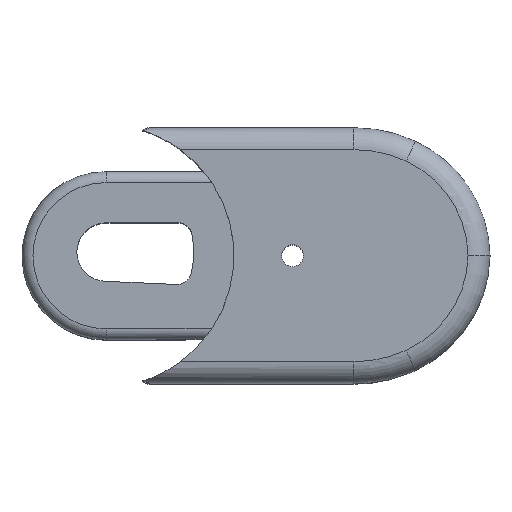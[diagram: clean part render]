
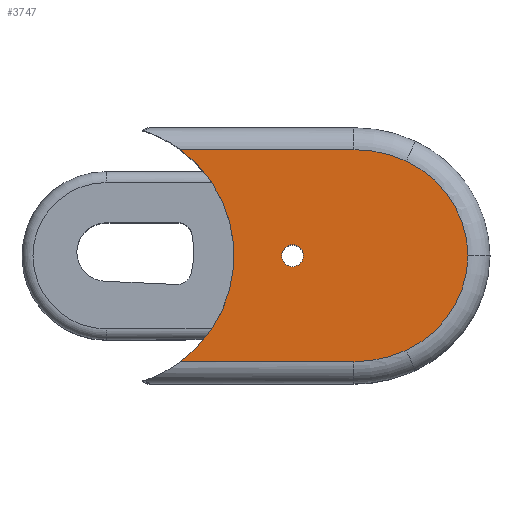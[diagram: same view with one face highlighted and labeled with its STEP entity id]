
A CAD part, top view. The second image highlights one B-rep face of the part: STEP entity #3747.
In plain terms, the highlighted free-form (B-spline) face has degree [1, 1] with [2, 2] control points.
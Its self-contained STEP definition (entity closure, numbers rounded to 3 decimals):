
#119=CARTESIAN_POINT('',(9.5,0.,50.0));
#120=VERTEX_POINT('',#119);
#121=CARTESIAN_POINT('',(8.,0.,50.0));
#122=DIRECTION('',(0.0,0.0,-1.0));
#123=DIRECTION('',(-1.0,0.0,0.0));
#124=AXIS2_PLACEMENT_3D('',#121,#122,#123);
#125=CIRCLE('',#124,1.5);
#126=EDGE_CURVE('',#120,#120,#125,.T.);
#3003=CARTESIAN_POINT('',(16.4,-14.5,50.0));
#3004=VERTEX_POINT('',#3003);
#3012=CARTESIAN_POINT('',(-7.335,-14.5,50.0));
#3013=VERTEX_POINT('',#3012);
#3014=CARTESIAN_POINT('',(16.4,-14.5,50.0));
#3015=DIRECTION('',(-1.0,0.0,0.0));
#3016=VECTOR('',#3015,23.735);
#3017=LINE('',#3014,#3016);
#3018=EDGE_CURVE('',#3004,#3013,#3017,.T.);
#3548=CARTESIAN_POINT('',(23.529,-12.933,50.0));
#3549=VERTEX_POINT('',#3548);
#3565=CARTESIAN_POINT('',(16.4,2.5,50.0));
#3566=DIRECTION('',(0.,0.,-1.0));
#3567=DIRECTION('',(0.215,-0.977,0.));
#3568=AXIS2_PLACEMENT_3D('',#3565,#3566,#3567);
#3569=CIRCLE('',#3568,17.0);
#3570=EDGE_CURVE('',#3549,#3004,#3569,.T.);
#3580=CARTESIAN_POINT('',(32.,0.,50.0));
#3581=VERTEX_POINT('',#3580);
#3582=CARTESIAN_POINT('',(17.502,0.255,50.0));
#3583=DIRECTION('',(0.,0.,-1.0));
#3584=DIRECTION('',(0.837,-0.546,0.));
#3585=AXIS2_PLACEMENT_3D('',#3582,#3583,#3584);
#3586=CIRCLE('',#3585,14.5);
#3587=EDGE_CURVE('',#3581,#3549,#3586,.T.);
#3622=CARTESIAN_POINT('',(23.529,12.933,50.0));
#3623=VERTEX_POINT('',#3622);
#3624=CARTESIAN_POINT('',(17.502,-0.255,50.0));
#3625=DIRECTION('',(0.,0.,-1.0));
#3626=DIRECTION('',(0.837,0.546,0.));
#3627=AXIS2_PLACEMENT_3D('',#3624,#3625,#3626);
#3628=CIRCLE('',#3627,14.5);
#3629=EDGE_CURVE('',#3623,#3581,#3628,.T.);
#3671=CARTESIAN_POINT('',(16.4,14.5,50.0));
#3672=VERTEX_POINT('',#3671);
#3680=CARTESIAN_POINT('',(16.4,-2.5,50.0));
#3681=DIRECTION('',(0.,0.,-1.));
#3682=DIRECTION('',(0.215,0.977,0.));
#3683=AXIS2_PLACEMENT_3D('',#3680,#3681,#3682);
#3684=CIRCLE('',#3683,17.);
#3685=EDGE_CURVE('',#3672,#3623,#3684,.T.);
#3698=CARTESIAN_POINT('',(-7.335,14.5,50.0));
#3699=VERTEX_POINT('',#3698);
#3713=CARTESIAN_POINT('',(-7.335,14.5,50.0));
#3714=DIRECTION('',(1.0,0.0,0.0));
#3715=VECTOR('',#3714,23.735);
#3716=LINE('',#3713,#3715);
#3717=EDGE_CURVE('',#3699,#3672,#3716,.T.);
#3724=CARTESIAN_POINT('',(-7.335,14.5,50.0));
#3725=CARTESIAN_POINT('',(32.,14.5,50.0));
#3726=CARTESIAN_POINT('',(-7.335,-14.5,50.0));
#3727=CARTESIAN_POINT('',(32.,-14.5,50.0));
#3728=B_SPLINE_SURFACE_WITH_KNOTS('',1,1,((#3724,#3726),(#3725,#3727)),.UNSPECIFIED.,.F.,.F.,.U.,(2,2),(2,2),(0.0,39.334),(0.0,29.),.UNSPECIFIED.);
#3729=ORIENTED_EDGE('',*,*,#3018,.F.);
#3730=ORIENTED_EDGE('',*,*,#3570,.F.);
#3731=ORIENTED_EDGE('',*,*,#3587,.F.);
#3732=ORIENTED_EDGE('',*,*,#3629,.F.);
#3733=ORIENTED_EDGE('',*,*,#3685,.F.);
#3734=ORIENTED_EDGE('',*,*,#3717,.F.);
#3735=CARTESIAN_POINT('',(-18.0,0.,50.0));
#3736=DIRECTION('',(0.,0.,-1.));
#3737=DIRECTION('',(-0.306,0.952,0.));
#3738=AXIS2_PLACEMENT_3D('',#3735,#3736,#3737);
#3739=CIRCLE('',#3738,18.);
#3740=EDGE_CURVE('',#3699,#3013,#3739,.T.);
#3741=ORIENTED_EDGE('',*,*,#3740,.T.);
#3742=EDGE_LOOP('',(#3729,#3730,#3731,#3732,#3733,#3734,#3741));
#3743=FACE_OUTER_BOUND('',#3742,.T.);
#3744=ORIENTED_EDGE('',*,*,#126,.T.);
#3745=EDGE_LOOP('',(#3744));
#3746=FACE_BOUND('',#3745,.T.);
#3747=ADVANCED_FACE('',(#3743,#3746),#3728,.F.);
